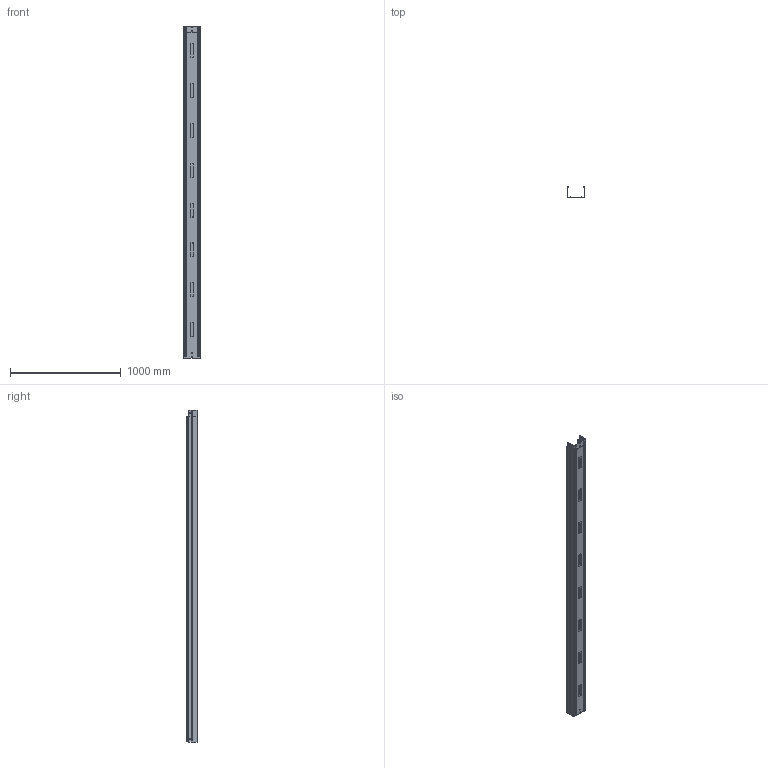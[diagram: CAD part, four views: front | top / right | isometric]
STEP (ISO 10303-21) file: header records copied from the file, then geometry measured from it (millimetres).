
FILE_DESCRIPTION (( 'STEP AP203' ), '1' );
FILE_NAME ('ERE-C 150x100 150x100.step', '2023-07-27T16:29:27', ( '' ), ( '' ), 'SwSTEP 2.0', 'SolidWorks 2022', '' );
FILE_SCHEMA (( 'CONFIG_CONTROL_DESIGN' ));
Products named in the file (1): ERE-C 150x100 150x100
Bounding box: 150 x 100.8 x 3000 mm (x, y, z)
Volume: 601523.3 mm3; surface area: 2181294.4 mm2
Topology: 1 solids, 1 shells, 10022 faces, 29532 edges, 19592 vertices
Faces by surface type: plane 9728, cylinder 190, torus 64, cone 36, bspline 4
Entity records: 326959 total; most frequent: CARTESIAN_POINT 59457, ORIENTED_EDGE 59064, DIRECTION 49956, EDGE_CURVE 29532, LINE 28974, VECTOR 28974, VERTEX_POINT 19592, AXIS2_PLACEMENT_3D 10491
